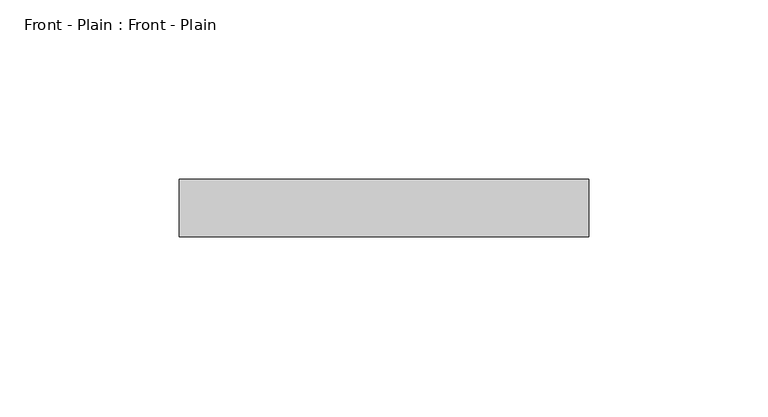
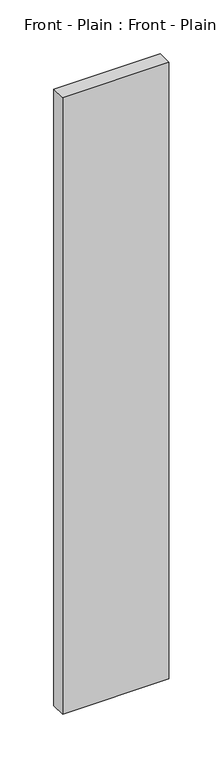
"""IFC4 building model written with IfcOpenShell, lengths in millimetres: furniture geometry, Front - Plain : Front - Plain."""

from ifc_helpers import new_model, si_unit, frame, origin, place, context, project, spatial, polyline, outline, extrude, source, transform, mapped, element, save


def front_plain_front_plain_e6c80844(model_context):
    return source(origin(), model_context, "Body", "SweptSolid", [
        extrude(outline(polyline([(57.0, 16.0), (57.0, 0.0), (-57.0, 0.0), (-57.0, 16.0), (57.0, 16.0)])), frame((0.0, 0.0, 3.0), z_axis=(0.0, 0.0, 1.0), x_axis=(1.0, 0.0, 0.0)), (0.0, 0.0, 1.0), 698.0),
    ])


if __name__ == "__main__":
    model = new_model("IFC4")
    model_context = context("Model", 3, world=origin())
    ifc_project = project(units=[si_unit("LENGTHUNIT", "METRE", prefix="MILLI")], contexts=[model_context])
    site = spatial("IfcSite", under=ifc_project)
    building = spatial("IfcBuilding", under=site)
    placement = place(None, origin())
    front_plain_front_plain_shape = front_plain_front_plain_e6c80844(model_context)
    element("IfcFurniture", 1, ObjectType="Front - Plain : Front - Plain", at=placement, inside=building, context=model_context, shape_type="MappedRepresentation", body=[
        mapped(front_plain_front_plain_shape, transform((0.0, 0.0, 0.0), x_axis=(1.0, 0.0, 0.0), y_axis=(0.0, 1.0, 0.0), z_axis=(0.0, 0.0, 1.0))),
    ])
    save(model, "model.ifc")
